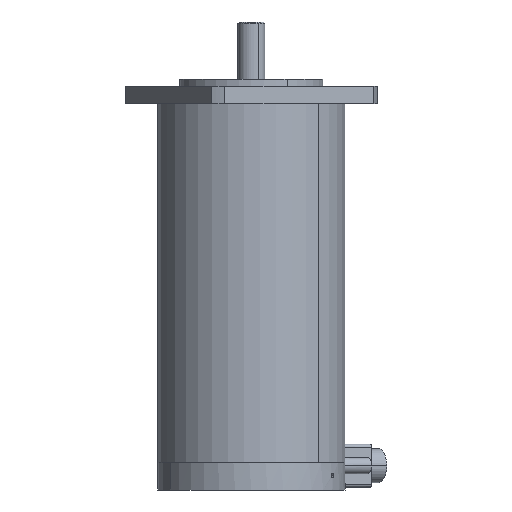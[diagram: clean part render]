
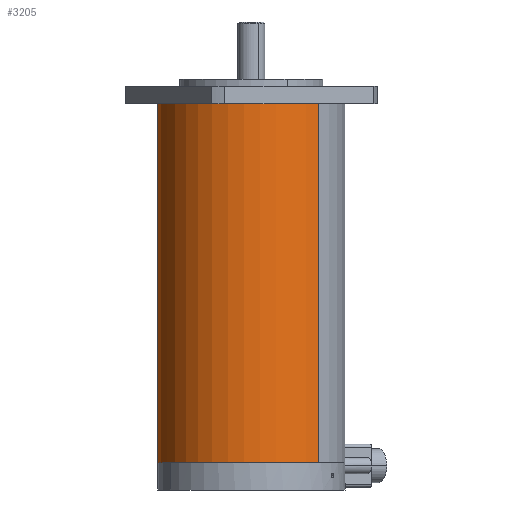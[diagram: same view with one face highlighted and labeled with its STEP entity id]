
A CAD part, left-side view. The second image highlights one B-rep face of the part: STEP entity #3205.
In plain terms, the highlighted cylindrical face has radius 65.5 mm (diameter 131 mm), a partial arc.
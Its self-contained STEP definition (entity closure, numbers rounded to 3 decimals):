
#14 = EDGE_CURVE ( 'NONE', #6284, #9489, #2510, .T. ) ;
#117 = CARTESIAN_POINT ( 'NONE',  ( 65.5, 0., 194. ) ) ;
#139 = DIRECTION ( 'NONE',  ( 0., 0., 1. ) ) ;
#419 = CARTESIAN_POINT ( 'NONE',  ( -65.5, 0., 251. ) ) ;
#425 = CIRCLE ( 'NONE', #8444, 65.5 ) ;
#454 = CARTESIAN_POINT ( 'NONE',  ( 0., 0., 251. ) ) ;
#670 = CARTESIAN_POINT ( 'NONE',  ( 65.5, 0., 251. ) ) ;
#1580 = DIRECTION ( 'NONE',  ( 0., 0., -1. ) ) ;
#2510 = LINE ( 'NONE', #117, #7395 ) ;
#2926 = EDGE_CURVE ( 'NONE', #5788, #6284, #425, .T. ) ;
#3001 = ORIENTED_EDGE ( 'NONE', *, *, #14, .T. ) ;
#3081 = DIRECTION ( 'NONE',  ( 0., 0., -1. ) ) ;
#3205 = ADVANCED_FACE ( 'NONE', ( #7955 ), #9701, .T. ) ;
#4036 = CARTESIAN_POINT ( 'NONE',  ( 0., 0., 0. ) ) ;
#4307 = EDGE_LOOP ( 'NONE', ( #5733, #3001, #9366, #5278 ) ) ;
#4601 = DIRECTION ( 'NONE',  ( -1., 0., 0. ) ) ;
#4813 = DIRECTION ( 'NONE',  ( -1., 0., 0. ) ) ;
#4919 = VECTOR ( 'NONE', #1580, 1000. ) ;
#5278 = ORIENTED_EDGE ( 'NONE', *, *, #9020, .F. ) ;
#5733 = ORIENTED_EDGE ( 'NONE', *, *, #2926, .T. ) ;
#5788 = VERTEX_POINT ( 'NONE', #419 ) ;
#5803 = DIRECTION ( 'NONE',  ( -1., 0., 0. ) ) ;
#5832 = DIRECTION ( 'NONE',  ( 0., 0., -1. ) ) ;
#6076 = VERTEX_POINT ( 'NONE', #6411 ) ;
#6136 = AXIS2_PLACEMENT_3D ( 'NONE', #4036, #139, #4813 ) ;
#6153 = CARTESIAN_POINT ( 'NONE',  ( -65.5, 0., 194. ) ) ;
#6209 = LINE ( 'NONE', #6153, #4919 ) ;
#6284 = VERTEX_POINT ( 'NONE', #670 ) ;
#6411 = CARTESIAN_POINT ( 'NONE',  ( -65.5, 0., 0. ) ) ;
#6583 = AXIS2_PLACEMENT_3D ( 'NONE', #7605, #3081, #4601 ) ;
#7015 = DIRECTION ( 'NONE',  ( 0., 0., -1. ) ) ;
#7395 = VECTOR ( 'NONE', #7015, 1000. ) ;
#7605 = CARTESIAN_POINT ( 'NONE',  ( 0., 0., 194. ) ) ;
#7875 = CIRCLE ( 'NONE', #6136, 65.5 ) ;
#7955 = FACE_OUTER_BOUND ( 'NONE', #4307, .T. ) ;
#8444 = AXIS2_PLACEMENT_3D ( 'NONE', #454, #5832, #5803 ) ;
#8456 = CARTESIAN_POINT ( 'NONE',  ( 65.5, 0., 0. ) ) ;
#9020 = EDGE_CURVE ( 'NONE', #5788, #6076, #6209, .T. ) ;
#9366 = ORIENTED_EDGE ( 'NONE', *, *, #9673, .T. ) ;
#9489 = VERTEX_POINT ( 'NONE', #8456 ) ;
#9673 = EDGE_CURVE ( 'NONE', #9489, #6076, #7875, .T. ) ;
#9701 = CYLINDRICAL_SURFACE ( 'NONE', #6583, 65.5 ) ;
